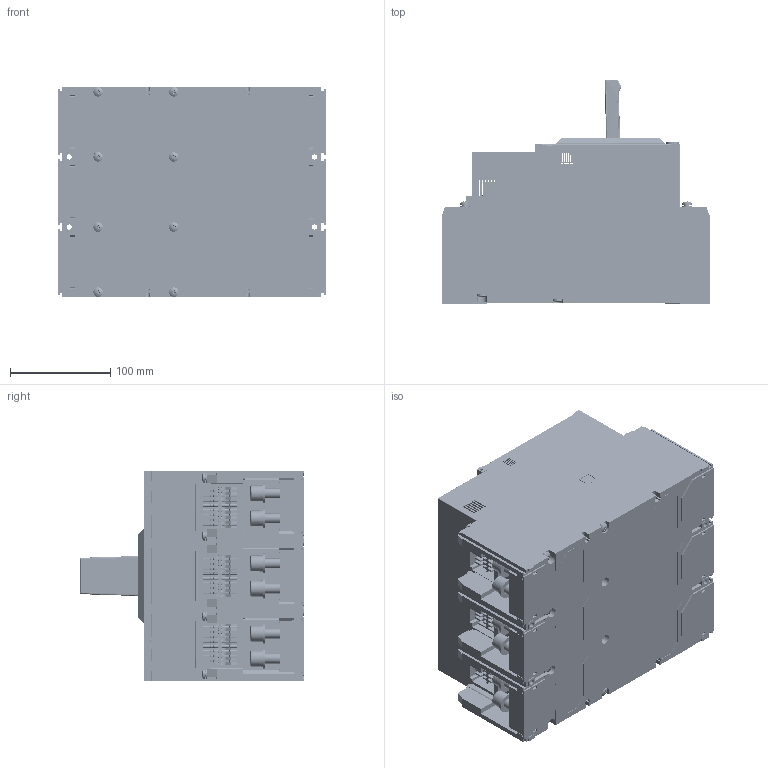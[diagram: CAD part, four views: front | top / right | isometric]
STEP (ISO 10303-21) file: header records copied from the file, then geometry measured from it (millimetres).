
FILE_DESCRIPTION (( 'STEP AP214' ), '1' );
FILE_NAME ('MNX1600_3P ﾈﾇﾌ.STEP', '2024-12-04T11:10:10', ( '' ), ( '' ), 'SwSTEP 2.0', 'SolidWorks 2022', '' );
FILE_SCHEMA (( 'AUTOMOTIVE_DESIGN' ));
Length unit declared in the file: millimetre
Products named in the file (1): MNX1600_3P ИЗМ
Bounding box: 268.5 x 223.87 x 210 mm (x, y, z)
Surface area: 1208755.5 mm2 (no closed solid volume)
Topology: 0 solids, 168 shells, 21501 faces, 61136 edges, 39993 vertices
Faces by surface type: plane 13629, cylinder 6625, torus 405, sphere 291, cone 281, bspline 270
Entity records: 973838 total; most frequent: CARTESIAN_POINT 170700, ORIENTED_EDGE 121918, DIRECTION 114642, EDGE_CURVE 61043, VECTOR 44520, LINE 44520, VERTEX_POINT 39993, AXIS2_PLACEMENT_3D 35061
